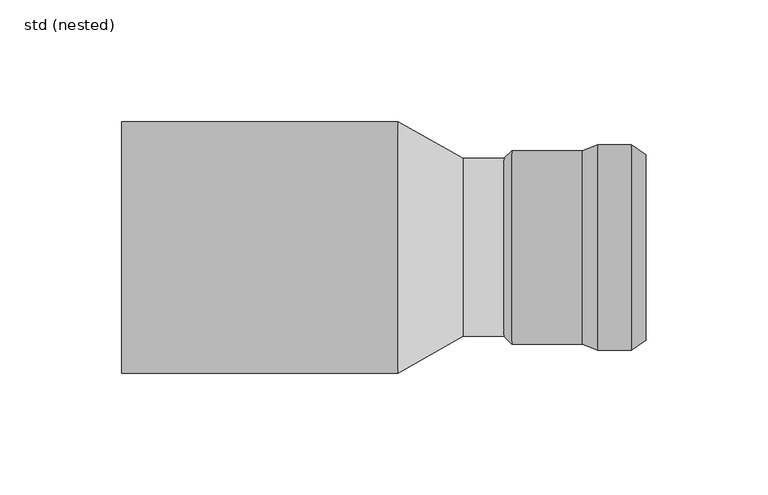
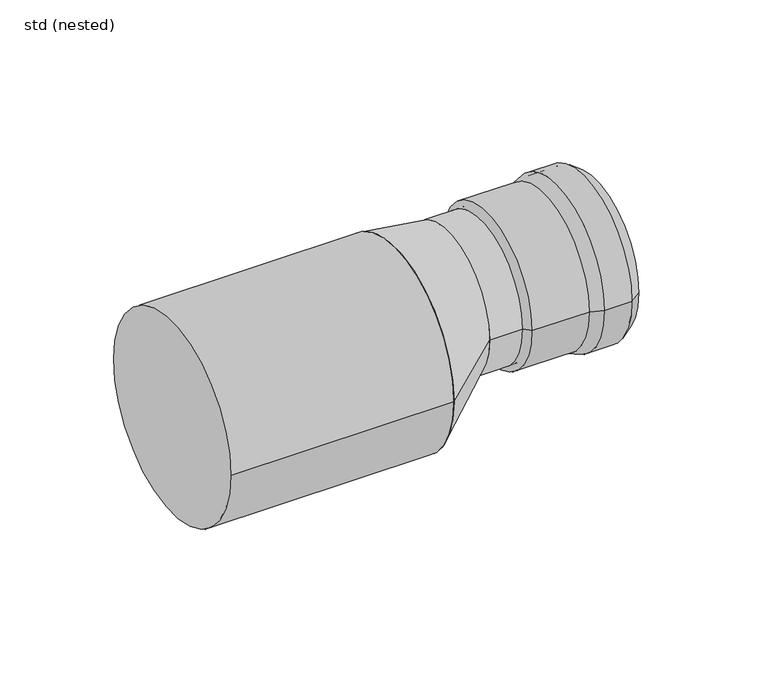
"""IFC4 building model written with IfcOpenShell, lengths in millimetres: pipe fitting geometry, ZZZ_do not use_PIF_ST_UN_GM-X transition element_ACO : std (nested)."""

from ifc_helpers import new_model, si_unit, point, frame, frame_2d, origin, origin_2d, place, context, project, spatial, polyline, circle_curve, trimmed, segment, composite_curve, outline, extrude, source, transform, mapped, element, save
from ifc_brep_helpers import plane_surface, cylinder_surface, revolved_surface, spline_surface, advanced_brep


def std_nested_2aa3ba4e(model_context):
    return source(origin(), model_context, "Body", "SolidModel", [
        advanced_brep(
        [(115.3, -42.1, 14.47), (115.3, 42.1, 14.47), (129.1, 42.1, 14.47), (129.1, -42.1, 14.47), (109.0, -39.6, 14.47), (109.0, 39.6, 14.47), (135.0, 38.0, 14.47), (135.0, -38.0, 14.47), (80.0, -39.6, 14.47), (80.0, 39.6, 14.47), (76.9, -36.5, 14.47), (76.9, 36.5, 14.47), (80.0, -36.5, 14.47), (80.0, 36.5, 14.47), (109.3058594, -38.0, 14.47), (109.3058594, 38.0, 14.47), (80.0, 38.0, 14.47), (80.0, -38.0, 14.47), (115.6058594, -40.5, 14.47), (115.6058594, 40.5, 14.47), (128.5986513, -40.5, 14.47), (128.5986513, 40.5, 14.47), (134.0869494, -36.6860979, 14.47), (134.0869494, 36.6860979, 14.47)],
        [
            (0, 1, circle_curve(frame((115.3, 0.0, 14.47), z_axis=(1.0, 0.0, 0.0), x_axis=(0.0, 1.0, 0.0)), 42.1)),
            (1, 2),
            (2, 3, circle_curve(frame((129.1, 0.0, 14.47), z_axis=(-1.0, 0.0, 0.0), x_axis=(0.0, 1.0, 0.0)), 42.1)),
            (3, 0),
            (1, 0, circle_curve(frame((115.3, 0.0, 14.47), z_axis=(1.0, 0.0, 0.0), x_axis=(0.0, 1.0, 0.0)), 42.1)),
            (3, 2, circle_curve(frame((129.1, 0.0, 14.47), z_axis=(-1.0, 0.0, 0.0), x_axis=(0.0, 1.0, 0.0)), 42.1)),
            (4, 5, circle_curve(frame((109.0, 0.0, 14.47), z_axis=(1.0, 0.0, 0.0), x_axis=(0.0, 1.0, 0.0)), 39.6)),
            (5, 1),
            (0, 4),
            (5, 4, circle_curve(frame((109.0, 0.0, 14.47), z_axis=(1.0, 0.0, 0.0), x_axis=(0.0, 1.0, 0.0)), 39.6)),
            (2, 6),
            (6, 7, circle_curve(frame((135.0, 0.0, 14.47), z_axis=(-1.0, 0.0, 0.0), x_axis=(0.0, 1.0, 0.0)), 38.0)),
            (7, 3),
            (7, 6, circle_curve(frame((135.0, 0.0, 14.47), z_axis=(-1.0, 0.0, 0.0), x_axis=(0.0, 1.0, 0.0)), 38.0)),
            (8, 9, circle_curve(frame((80.0, 0.0, 14.47), z_axis=(1.0, 0.0, 0.0), x_axis=(0.0, 1.0, 0.0)), 39.6)),
            (9, 5),
            (4, 8),
            (9, 8, circle_curve(frame((80.0, 0.0, 14.47), z_axis=(1.0, 0.0, 0.0), x_axis=(0.0, 1.0, 0.0)), 39.6)),
            (10, 11, circle_curve(frame((76.9, 0.0, 14.47), z_axis=(1.0, 0.0, 0.0), x_axis=(0.0, 1.0, 0.0)), 36.5)),
            (11, 9),
            (8, 10),
            (11, 10, circle_curve(frame((76.9, 0.0, 14.47), z_axis=(1.0, 0.0, 0.0), x_axis=(0.0, 1.0, 0.0)), 36.5)),
            (12, 13, circle_curve(frame((80.0, 0.0, 14.47), z_axis=(1.0, 0.0, 0.0), x_axis=(0.0, 1.0, 0.0)), 36.5)),
            (13, 11),
            (10, 12),
            (13, 12, circle_curve(frame((80.0, 0.0, 14.47), z_axis=(1.0, 0.0, 0.0), x_axis=(0.0, 1.0, 0.0)), 36.5)),
            (14, 15, circle_curve(frame((109.3058594, 0.0, 14.47), z_axis=(1.0, 0.0, 0.0), x_axis=(0.0, 1.0, 0.0)), 38.0)),
            (15, 16),
            (16, 17, circle_curve(frame((80.0, 0.0, 14.47), z_axis=(-1.0, 0.0, 0.0), x_axis=(0.0, 1.0, 0.0)), 38.0)),
            (17, 14),
            (15, 14, circle_curve(frame((109.3058594, 0.0, 14.47), z_axis=(1.0, 0.0, 0.0), x_axis=(0.0, 1.0, 0.0)), 38.0)),
            (17, 16, circle_curve(frame((80.0, 0.0, 14.47), z_axis=(-1.0, 0.0, 0.0), x_axis=(0.0, 1.0, 0.0)), 38.0)),
            (18, 19, circle_curve(frame((115.6058594, 0.0, 14.47), z_axis=(1.0, 0.0, 0.0), x_axis=(0.0, 1.0, 0.0)), 40.5)),
            (19, 15),
            (14, 18),
            (19, 18, circle_curve(frame((115.6058594, 0.0, 14.47), z_axis=(1.0, 0.0, 0.0), x_axis=(0.0, 1.0, 0.0)), 40.5)),
            (20, 21, circle_curve(frame((128.5986513, 0.0, 14.47), z_axis=(1.0, 0.0, 0.0), x_axis=(0.0, 1.0, 0.0)), 40.5)),
            (21, 19),
            (18, 20),
            (21, 20, circle_curve(frame((128.5986513, 0.0, 14.47), z_axis=(1.0, 0.0, 0.0), x_axis=(0.0, 1.0, 0.0)), 40.5)),
            (22, 23, circle_curve(frame((134.0869494, 0.0, 14.47), z_axis=(1.0, 0.0, 0.0), x_axis=(0.0, 1.0, 0.0)), 36.6860979)),
            (23, 21),
            (20, 22),
            (23, 22, circle_curve(frame((134.0869494, 0.0, 14.47), z_axis=(1.0, 0.0, 0.0), x_axis=(0.0, 1.0, 0.0)), 36.6860979)),
            (6, 23),
            (22, 7),
            (16, 13),
            (12, 17),
        ],
        [
            cylinder_surface(frame((131.6444117, 0.0, 14.47), z_axis=(-1.0, 0.0, 0.0), x_axis=(0.0, 1.0, 0.0)), 42.1),
            revolved_surface(polyline([(115.3, 42.1, 14.47), (109.0, 39.6, 14.47)]), (131.6444117, 0.0, 14.47), (-1.0, 0.0, 0.0)),
            revolved_surface(polyline([(135.0, 38.0, 14.47), (129.1, 42.1, 14.47)]), (131.6444117, 0.0, 14.47), (-1.0, 0.0, 0.0)),
            cylinder_surface(frame((131.6444117, 0.0, 14.47), z_axis=(-1.0, 0.0, 0.0), x_axis=(0.0, 1.0, 0.0)), 39.6),
            revolved_surface(polyline([(80.0, 39.6, 14.47), (76.9, 36.5, 14.47)]), (131.6444117, 0.0, 14.47), (-1.0, 0.0, 0.0)),
            revolved_surface(polyline([(76.9, 36.5, 14.47), (80.0, 36.5, 14.47)]), (131.6444117, 0.0, 14.47), (-1.0, 0.0, 0.0)),
            revolved_surface(polyline([(80.0, 38.0, 14.47), (109.3058594, 38.0, 14.47)]), (131.6444117, 0.0, 14.47), (-1.0, 0.0, 0.0)),
            revolved_surface(polyline([(109.3058594, 38.0, 14.47), (115.6058594, 40.5, 14.47)]), (131.6444117, 0.0, 14.47), (-1.0, 0.0, 0.0)),
            revolved_surface(polyline([(115.6058594, 40.5, 14.47), (128.5986513, 40.5, 14.47)]), (131.6444117, 0.0, 14.47), (-1.0, 0.0, 0.0)),
            revolved_surface(polyline([(128.5986513, 40.5, 14.47), (134.0869494, 36.6860979, 14.47)]), (131.6444117, 0.0, 14.47), (-1.0, 0.0, 0.0)),
            revolved_surface(polyline([(134.0869494, 36.6860979, 14.47), (135.0, 38.0, 14.47)]), (131.6444117, 0.0, 14.47), (-1.0, 0.0, 0.0)),
            plane_surface(frame((80.0, 0.0, 14.47), z_axis=(1.0, 0.0, 0.0), x_axis=(0.0, 1.0, 0.0))),
        ],
        [
            (0, [[1, 2, 3, 4]]),
            (0, [[5, -4, 6, -2]]),
            (1, [[7, 8, -1, 9]]),
            (1, [[10, -9, -5, -8]]),
            (2, [[-3, 11, 12, 13]]),
            (2, [[-6, -13, 14, -11]]),
            (3, [[15, 16, -7, 17]]),
            (3, [[18, -17, -10, -16]]),
            (4, [[19, 20, -15, 21]]),
            (4, [[22, -21, -18, -20]]),
            (5, [[23, 24, -19, 25]]),
            (5, [[26, -25, -22, -24]]),
            (6, [[27, 28, 29, 30]]),
            (6, [[31, -30, 32, -28]]),
            (7, [[33, 34, -27, 35]]),
            (7, [[36, -35, -31, -34]]),
            (8, [[37, 38, -33, 39]]),
            (8, [[40, -39, -36, -38]]),
            (9, [[41, 42, -37, 43]]),
            (9, [[44, -43, -40, -42]]),
            (10, [[-12, 45, -41, 46]]),
            (10, [[-14, -46, -44, -45]]),
            (11, [[-29, 47, -23, 48]]),
            (11, [[-32, -48, -26, -47]]),
        ],
    ),
        advanced_brep(
        [(60.0, -36.5, 14.47), (60.0, 36.5, 14.47), (33.3333333, -51.5, 0.0), (33.3333333, 51.5, 0.0)],
        [
            (0, 1, circle_curve(frame((60.0, 0.0, 14.47), z_axis=(1.0, 0.0, 0.0), x_axis=(0.0, 1.0, 0.0)), 36.5)),
            (1, 0, circle_curve(frame((60.0, 0.0, 14.47), z_axis=(1.0, 0.0, 0.0), x_axis=(0.0, 1.0, 0.0)), 36.5)),
            (2, 3, circle_curve(frame((33.3333333, 0.0, 0.0), z_axis=(-1.0, 0.0, 0.0), x_axis=(0.0, 1.0, 0.0)), 51.5)),
            (3, 2, circle_curve(frame((33.3333333, 0.0, 0.0), z_axis=(-1.0, 0.0, 0.0), x_axis=(0.0, 1.0, 0.0)), 51.5)),
            (3, 1),
            (0, 2),
        ],
        [
            plane_surface(frame((60.0, 0.0, 14.47), z_axis=(1.0, 0.0, 0.0), x_axis=(0.0, 0.0, -1.0))),
            plane_surface(frame((33.3333333, 0.0, 0.0), z_axis=(-1.0, 0.0, 0.0), x_axis=(0.0, 0.0, -1.0))),
            spline_surface(2, 1, [[(33.3333333, -51.5, 0.0), (60.0, -36.5, 14.47)], [(33.3333333, -51.5, -51.5), (60.0, -36.5, -22.03)], [(33.3333333, 0.0, -51.5), (60.0, 0.0, -22.03)], [(33.3333333, 51.5, -51.5), (60.0, 36.5, -22.03)], [(33.3333333, 51.5, 0.0), (60.0, 36.5, 14.47)]], [3, 2, 3], [2, 2], [0.0, 1.0, 2.0], [0.0, 1.0], weights=[[1.0, 1.0], [0.7071067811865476, 0.7071067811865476], [1.0, 1.0], [0.7071067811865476, 0.7071067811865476], [1.0, 1.0]]),
            spline_surface(2, 1, [[(33.3333333, 51.5, 0.0), (60.0, 36.5, 14.47)], [(33.3333333, 51.5, 51.5), (60.0, 36.5, 50.97)], [(33.3333333, 0.0, 51.5), (60.0, 0.0, 50.97)], [(33.3333333, -51.5, 51.5), (60.0, -36.5, 50.97)], [(33.3333333, -51.5, 0.0), (60.0, -36.5, 14.47)]], [3, 2, 3], [2, 2], [0.0, 1.0, 2.0], [0.0, 1.0], weights=[[1.0, 1.0], [0.7071067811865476, 0.7071067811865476], [1.0, 1.0], [0.7071067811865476, 0.7071067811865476], [1.0, 1.0]]),
        ],
        [
            (0, [[1, 2]]),
            (1, [[3, 4]]),
            (2, [[-4, 5, -1, 6]]),
            (3, [[-3, -6, -2, -5]]),
        ],
    ),
        extrude(outline(composite_curve([segment(trimmed(circle_curve(frame_2d((0.0, 14.47)), 36.5), [point((36.5, 14.47))], [point((-36.5, 14.47))], False, "CARTESIAN"), True, "CONTINUOUS"), segment(trimmed(circle_curve(frame_2d((0.0, 14.47)), 36.5), [point((-36.5, 14.47))], [point((36.5, 14.47))], False, "CARTESIAN"), True, "CONTINUOUS")], self_intersect=False)), frame((60.0, 0.0, 0.0), z_axis=(1.0, 0.0, 0.0), x_axis=(0.0, 1.0, 0.0)), (0.0, 0.0, 1.0), 20.0),
        extrude(outline(composite_curve([segment(trimmed(circle_curve(origin_2d(), 51.5), [point((-51.5, 0.0))], [point((51.5, 0.0))], False, "CARTESIAN"), True, "CONTINUOUS"), segment(trimmed(circle_curve(origin_2d(), 51.5), [point((51.5, 0.0))], [point((-51.5, 0.0))], False, "CARTESIAN"), True, "CONTINUOUS")], self_intersect=False)), frame((-80.0, 0.0, 0.0), z_axis=(1.0, 0.0, 0.0), x_axis=(0.0, 1.0, 0.0)), (0.0, 0.0, 1.0), 113.3333333),
    ])


if __name__ == "__main__":
    model = new_model("IFC4")
    model_context = context("Model", 3, world=origin())
    ifc_project = project(units=[si_unit("LENGTHUNIT", "METRE", prefix="MILLI")], contexts=[model_context])
    site = spatial("IfcSite", under=ifc_project)
    building = spatial("IfcBuilding", under=site)
    placement = place(None, origin())
    std_nested_shape = std_nested_2aa3ba4e(model_context)
    element("IfcPipeFitting", 1, ObjectType="ZZZ_do not use_PIF_ST_UN_GM-X transition element_ACO : std (nested)", at=placement, inside=building, context=model_context, shape_type="MappedRepresentation", body=[
        mapped(std_nested_shape, transform((0.0, 0.0, 0.0), x_axis=(1.0, 0.0, 0.0), y_axis=(0.0, 1.0, 0.0), z_axis=(0.0, 0.0, 1.0))),
    ])
    save(model, "model.ifc")
